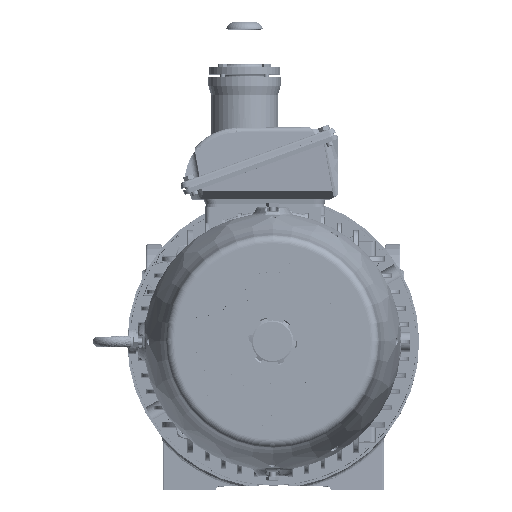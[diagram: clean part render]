
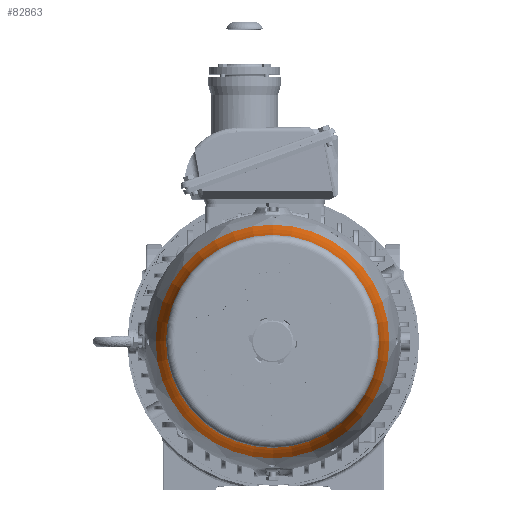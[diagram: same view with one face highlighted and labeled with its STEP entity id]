
A CAD part, top view. The second image highlights one B-rep face of the part: STEP entity #82863.
In plain terms, the highlighted toroidal (fillet/blend) face has major radius 308.616 mm and minor radius 180 mm.
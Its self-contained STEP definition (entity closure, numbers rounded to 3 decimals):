
#66=TOROIDAL_SURFACE('',#88717,308.617,180.);
#8490=FACE_OUTER_BOUND('',#13326,.T.);
#13326=EDGE_LOOP('',(#55405,#55406,#55407,#55408,#55409,#55410));
#18801=CIRCLE('',#88698,142.487);
#18802=CIRCLE('',#88699,142.487);
#18820=CIRCLE('',#88718,180.);
#18821=CIRCLE('',#88719,129.927);
#18822=CIRCLE('',#88720,129.927);
#33274=VERTEX_POINT('',#127630);
#33275=VERTEX_POINT('',#127634);
#33309=VERTEX_POINT('',#127924);
#33310=VERTEX_POINT('',#127926);
#41842=EDGE_CURVE('',#33274,#33275,#18801,.T.);
#41843=EDGE_CURVE('',#33275,#33274,#18802,.T.);
#41878=EDGE_CURVE('',#33274,#33309,#18820,.T.);
#41879=EDGE_CURVE('',#33309,#33310,#18821,.T.);
#41880=EDGE_CURVE('',#33310,#33309,#18822,.T.);
#55405=ORIENTED_EDGE('',*,*,#41843,.F.);
#55406=ORIENTED_EDGE('',*,*,#41842,.F.);
#55407=ORIENTED_EDGE('',*,*,#41878,.T.);
#55408=ORIENTED_EDGE('',*,*,#41879,.T.);
#55409=ORIENTED_EDGE('',*,*,#41880,.T.);
#55410=ORIENTED_EDGE('',*,*,#41878,.F.);
#82863=ADVANCED_FACE('',(#8490),#66,.F.);
#88698=AXIS2_PLACEMENT_3D('',#127635,#99602,#99603);
#88699=AXIS2_PLACEMENT_3D('',#127636,#99604,#99605);
#88717=AXIS2_PLACEMENT_3D('',#127923,#99640,#99641);
#88718=AXIS2_PLACEMENT_3D('',#127925,#99642,#99643);
#88719=AXIS2_PLACEMENT_3D('',#127927,#99644,#99645);
#88720=AXIS2_PLACEMENT_3D('',#127928,#99646,#99647);
#99602=DIRECTION('center_axis',(0.,0.,
-1.));
#99603=DIRECTION('ref_axis',(-1.,0.,0.));
#99604=DIRECTION('center_axis',(0.,0.,
-1.));
#99605=DIRECTION('ref_axis',(-1.,0.,0.));
#99640=DIRECTION('center_axis',(0.,0.,
-1.));
#99641=DIRECTION('ref_axis',(-1.,0.,0.));
#99642=DIRECTION('center_axis',(0.,1.,0.));
#99643=DIRECTION('ref_axis',(1.,0.,0.));
#99644=DIRECTION('center_axis',(0.,0.,
-1.));
#99645=DIRECTION('ref_axis',(-1.,0.,0.));
#99646=DIRECTION('center_axis',(0.,0.,
-1.));
#99647=DIRECTION('ref_axis',(-1.,0.,0.));
#127630=CARTESIAN_POINT('',(141.623,0.,553.399));
#127634=CARTESIAN_POINT('',(-143.35,0.,553.399));
#127635=CARTESIAN_POINT('Origin',(-0.863,0.,
553.399));
#127636=CARTESIAN_POINT('Origin',(-0.863,0.,
553.399));
#127923=CARTESIAN_POINT('Origin',(-0.863,0.,
622.687));
#127924=CARTESIAN_POINT('',(129.064,0.,601.005));
#127925=CARTESIAN_POINT('Origin',(307.753,0.,
622.687));
#127926=CARTESIAN_POINT('',(-130.791,0.,601.005));
#127927=CARTESIAN_POINT('Origin',(-0.863,0.,
601.005));
#127928=CARTESIAN_POINT('Origin',(-0.863,0.,
601.005));
